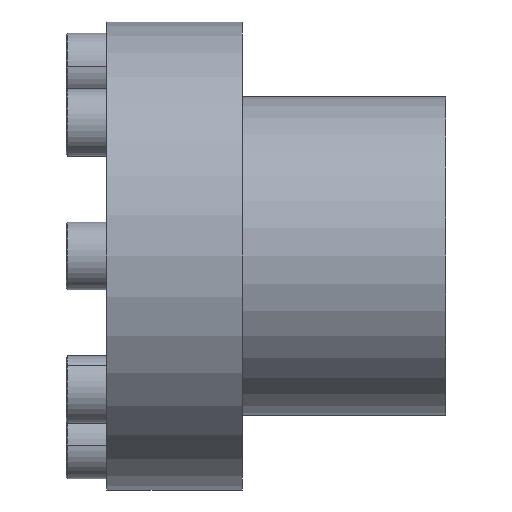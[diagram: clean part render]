
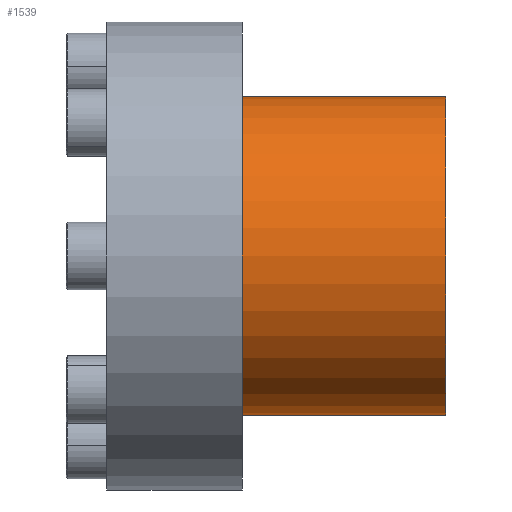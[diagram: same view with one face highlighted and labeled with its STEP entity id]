
A CAD part, front view. The second image highlights one B-rep face of the part: STEP entity #1539.
In plain terms, the highlighted cylindrical face has radius 23.5 mm (diameter 47 mm), a partial arc.
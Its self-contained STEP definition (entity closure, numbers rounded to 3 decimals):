
#371 = VERTEX_POINT ( 'NONE', #1941 ) ;
#372 = VERTEX_POINT ( 'NONE', #1940 ) ;
#374 = EDGE_CURVE ( 'NONE', #372, #865, #1871, .T. ) ;
#865 = VERTEX_POINT ( 'NONE', #2370 ) ;
#868 = VERTEX_POINT ( 'NONE', #2364 ) ;
#870 = EDGE_CURVE ( 'NONE', #371, #868, #2363, .T. ) ;
#1538 = EDGE_CURVE ( 'NONE', #865, #868, #4719, .T. ) ;
#1539 = ADVANCED_FACE ( 'NONE', ( #4720 ), #4876, .T. ) ;
#1540 = EDGE_LOOP ( 'NONE', ( #1541, #1542, #1544, #1545 ) ) ;
#1541 = ORIENTED_EDGE ( 'NONE', *, *, #374, .F. ) ;
#1542 = ORIENTED_EDGE ( 'NONE', *, *, #1543, .T. ) ;
#1543 = EDGE_CURVE ( 'NONE', #372, #371, #4856, .T. ) ;
#1544 = ORIENTED_EDGE ( 'NONE', *, *, #870, .T. ) ;
#1545 = ORIENTED_EDGE ( 'NONE', *, *, #1538, .F. ) ;
#1868 = DIRECTION ( 'NONE',  ( -1., 0., 0. ) ) ;
#1869 = VECTOR ( 'NONE', #1868, 1000. ) ;
#1870 = CARTESIAN_POINT ( 'NONE',  ( 0., 0., -23.5 ) ) ;
#1871 = LINE ( 'NONE', #1870, #1869 ) ;
#1940 = CARTESIAN_POINT ( 'NONE',  ( 50., 0., -23.5 ) ) ;
#1941 = CARTESIAN_POINT ( 'NONE',  ( 50., 0., 23.5 ) ) ;
#2360 = DIRECTION ( 'NONE',  ( -1., 0., 0. ) ) ;
#2361 = VECTOR ( 'NONE', #2360, 1000. ) ;
#2362 = CARTESIAN_POINT ( 'NONE',  ( 0., 0., 23.5 ) ) ;
#2363 = LINE ( 'NONE', #2362, #2361 ) ;
#2364 = CARTESIAN_POINT ( 'NONE',  ( 20., 0., 23.5 ) ) ;
#2370 = CARTESIAN_POINT ( 'NONE',  ( 20., 0., -23.5 ) ) ;
#4718 = AXIS2_PLACEMENT_3D ( 'NONE', #4891, #4878, #4877 ) ;
#4719 = CIRCLE ( 'NONE', #4718, 23.5 ) ;
#4720 = FACE_OUTER_BOUND ( 'NONE', #1540, .T. ) ;
#4747 = DIRECTION ( 'NONE',  ( 0., 0., 1. ) ) ;
#4853 = DIRECTION ( 'NONE',  ( -1., 0., 0. ) ) ;
#4854 = CARTESIAN_POINT ( 'NONE',  ( 50., 0., 0. ) ) ;
#4855 = AXIS2_PLACEMENT_3D ( 'NONE', #4854, #4853, #4747 ) ;
#4856 = CIRCLE ( 'NONE', #4855, 23.5 ) ;
#4865 = DIRECTION ( 'NONE',  ( 0., 0., 1. ) ) ;
#4866 = DIRECTION ( 'NONE',  ( -1., 0., 0. ) ) ;
#4867 = CARTESIAN_POINT ( 'NONE',  ( 0., 0., 0. ) ) ;
#4876 = CYLINDRICAL_SURFACE ( 'NONE', #4892, 23.5 ) ;
#4877 = DIRECTION ( 'NONE',  ( 0., 0., 1. ) ) ;
#4878 = DIRECTION ( 'NONE',  ( -1., 0., 0. ) ) ;
#4891 = CARTESIAN_POINT ( 'NONE',  ( 20., 0., 0. ) ) ;
#4892 = AXIS2_PLACEMENT_3D ( 'NONE', #4867, #4866, #4865 ) ;
